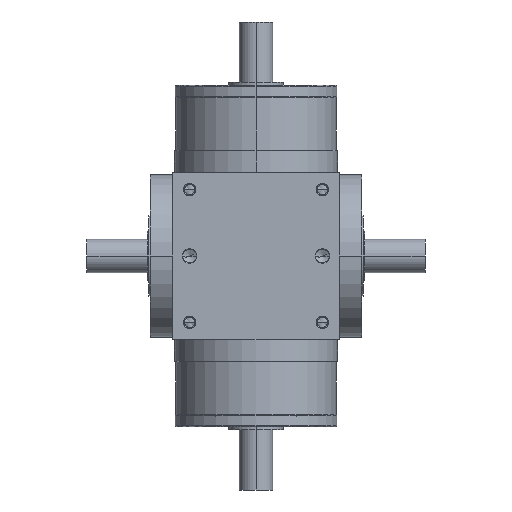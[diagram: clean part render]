
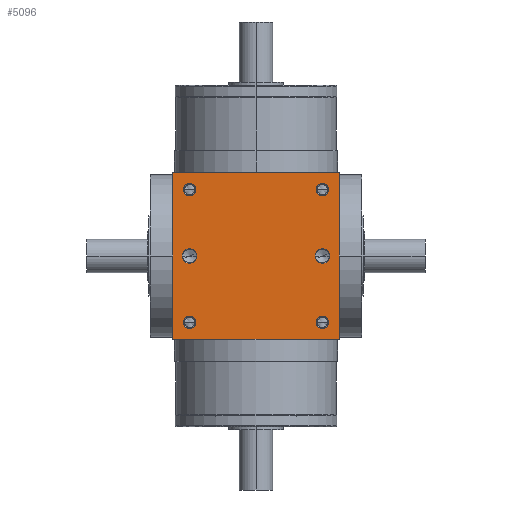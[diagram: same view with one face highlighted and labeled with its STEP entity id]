
A CAD part, front view. The second image highlights one B-rep face of the part: STEP entity #5096.
In plain terms, the highlighted planar face has unit normal (0, -1, 0).
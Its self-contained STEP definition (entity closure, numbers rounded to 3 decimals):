
#5=DIRECTION('',(1.,0.,0.));
#6=VECTOR('',#5,110.);
#7=CARTESIAN_POINT('',(-55.,-55.,-55.));
#8=LINE('',#7,#6);
#165=DIRECTION('',(0.,0.,1.));
#166=VECTOR('',#165,110.);
#167=CARTESIAN_POINT('',(55.,-55.,-55.));
#168=LINE('',#167,#166);
#219=DIRECTION('',(0.,0.,1.));
#220=VECTOR('',#219,110.);
#221=CARTESIAN_POINT('',(-55.,-55.,-55.));
#222=LINE('',#221,#220);
#223=CARTESIAN_POINT('',(44.,-55.,44.));
#224=DIRECTION('',(0.,1.,0.));
#225=DIRECTION('',(-1.,0.,0.));
#226=AXIS2_PLACEMENT_3D('',#223,#224,#225);
#228=CARTESIAN_POINT('',(44.,-55.,44.));
#229=DIRECTION('',(0.,1.,0.));
#230=DIRECTION('',(1.,0.,0.));
#231=AXIS2_PLACEMENT_3D('',#228,#229,#230);
#233=CARTESIAN_POINT('',(-44.,-55.,44.));
#234=DIRECTION('',(0.,1.,0.));
#235=DIRECTION('',(-1.,0.,0.));
#236=AXIS2_PLACEMENT_3D('',#233,#234,#235);
#238=CARTESIAN_POINT('',(-44.,-55.,44.));
#239=DIRECTION('',(0.,1.,0.));
#240=DIRECTION('',(1.,0.,0.));
#241=AXIS2_PLACEMENT_3D('',#238,#239,#240);
#243=CARTESIAN_POINT('',(44.,-55.,-44.));
#244=DIRECTION('',(0.,1.,0.));
#245=DIRECTION('',(-1.,0.,0.));
#246=AXIS2_PLACEMENT_3D('',#243,#244,#245);
#248=CARTESIAN_POINT('',(44.,-55.,-44.));
#249=DIRECTION('',(0.,1.,0.));
#250=DIRECTION('',(1.,0.,0.));
#251=AXIS2_PLACEMENT_3D('',#248,#249,#250);
#253=CARTESIAN_POINT('',(-44.,-55.,-44.));
#254=DIRECTION('',(0.,1.,0.));
#255=DIRECTION('',(-1.,0.,0.));
#256=AXIS2_PLACEMENT_3D('',#253,#254,#255);
#258=CARTESIAN_POINT('',(-44.,-55.,-44.));
#259=DIRECTION('',(0.,1.,0.));
#260=DIRECTION('',(1.,0.,0.));
#261=AXIS2_PLACEMENT_3D('',#258,#259,#260);
#263=CARTESIAN_POINT('',(-44.,-55.,0.));
#264=DIRECTION('',(0.,1.,0.));
#265=DIRECTION('',(1.,0.,0.));
#266=AXIS2_PLACEMENT_3D('',#263,#264,#265);
#268=CARTESIAN_POINT('',(-44.,-55.,0.));
#269=DIRECTION('',(0.,1.,0.));
#270=DIRECTION('',(-1.,0.,0.));
#271=AXIS2_PLACEMENT_3D('',#268,#269,#270);
#273=CARTESIAN_POINT('',(44.,-55.,0.));
#274=DIRECTION('',(0.,1.,0.));
#275=DIRECTION('',(1.,0.,0.));
#276=AXIS2_PLACEMENT_3D('',#273,#274,#275);
#278=CARTESIAN_POINT('',(44.,-55.,0.));
#279=DIRECTION('',(0.,1.,0.));
#280=DIRECTION('',(-1.,0.,0.));
#281=AXIS2_PLACEMENT_3D('',#278,#279,#280);
#295=DIRECTION('',(1.,0.,0.));
#296=VECTOR('',#295,110.);
#297=CARTESIAN_POINT('',(-55.,-55.,55.));
#298=LINE('',#297,#296);
#4070=CARTESIAN_POINT('',(-55.,-55.,-55.));
#4072=VERTEX_POINT('',#4070);
#4073=CARTESIAN_POINT('',(55.,-55.,-55.));
#4074=VERTEX_POINT('',#4073);
#4078=CARTESIAN_POINT('',(-55.,-55.,55.));
#4080=VERTEX_POINT('',#4078);
#4081=CARTESIAN_POINT('',(55.,-55.,55.));
#4082=VERTEX_POINT('',#4081);
#4261=CARTESIAN_POINT('',(39.8,-55.,44.));
#4262=CARTESIAN_POINT('',(48.2,-55.,44.));
#4263=VERTEX_POINT('',#4261);
#4264=VERTEX_POINT('',#4262);
#4269=CARTESIAN_POINT('',(-48.2,-55.,44.));
#4270=CARTESIAN_POINT('',(-39.8,-55.,44.));
#4271=VERTEX_POINT('',#4269);
#4272=VERTEX_POINT('',#4270);
#4277=CARTESIAN_POINT('',(39.8,-55.,-44.));
#4278=CARTESIAN_POINT('',(48.2,-55.,-44.));
#4279=VERTEX_POINT('',#4277);
#4280=VERTEX_POINT('',#4278);
#4285=CARTESIAN_POINT('',(-48.2,-55.,-44.));
#4286=CARTESIAN_POINT('',(-39.8,-55.,-44.));
#4287=VERTEX_POINT('',#4285);
#4288=VERTEX_POINT('',#4286);
#4645=CARTESIAN_POINT('',(-39.15,-55.,0.));
#4646=CARTESIAN_POINT('',(-48.85,-55.,0.));
#4647=VERTEX_POINT('',#4645);
#4648=VERTEX_POINT('',#4646);
#4653=CARTESIAN_POINT('',(48.85,-55.,0.));
#4654=CARTESIAN_POINT('',(39.15,-55.,0.));
#4655=VERTEX_POINT('',#4653);
#4656=VERTEX_POINT('',#4654);
#5048=CARTESIAN_POINT('',(-55.,-55.,-55.));
#5049=DIRECTION('',(0.,-1.,0.));
#5050=DIRECTION('',(1.,0.,0.));
#5051=AXIS2_PLACEMENT_3D('',#5048,#5049,#5050);
#5052=PLANE('',#5051);
#5053=ORIENTED_EDGE('',*,*,#4882,.F.);
#5054=ORIENTED_EDGE('',*,*,#4931,.T.);
#5056=ORIENTED_EDGE('',*,*,#5055,.T.);
#5057=ORIENTED_EDGE('',*,*,#5010,.F.);
#5058=EDGE_LOOP('',(#5053,#5054,#5056,#5057));
#5059=FACE_OUTER_BOUND('',#5058,.F.);
#5061=ORIENTED_EDGE('',*,*,#5060,.F.);
#5063=ORIENTED_EDGE('',*,*,#5062,.F.);
#5064=EDGE_LOOP('',(#5061,#5063));
#5065=FACE_BOUND('',#5064,.F.);
#5067=ORIENTED_EDGE('',*,*,#5066,.F.);
#5069=ORIENTED_EDGE('',*,*,#5068,.F.);
#5070=EDGE_LOOP('',(#5067,#5069));
#5071=FACE_BOUND('',#5070,.F.);
#5073=ORIENTED_EDGE('',*,*,#5072,.F.);
#5075=ORIENTED_EDGE('',*,*,#5074,.F.);
#5076=EDGE_LOOP('',(#5073,#5075));
#5077=FACE_BOUND('',#5076,.F.);
#5079=ORIENTED_EDGE('',*,*,#5078,.F.);
#5081=ORIENTED_EDGE('',*,*,#5080,.F.);
#5082=EDGE_LOOP('',(#5079,#5081));
#5083=FACE_BOUND('',#5082,.F.);
#5085=ORIENTED_EDGE('',*,*,#5084,.F.);
#5087=ORIENTED_EDGE('',*,*,#5086,.F.);
#5088=EDGE_LOOP('',(#5085,#5087));
#5089=FACE_BOUND('',#5088,.F.);
#5091=ORIENTED_EDGE('',*,*,#5090,.F.);
#5093=ORIENTED_EDGE('',*,*,#5092,.F.);
#5094=EDGE_LOOP('',(#5091,#5093));
#5095=FACE_BOUND('',#5094,.F.);
#5096=ADVANCED_FACE('',(#5059,#5065,#5071,#5077,#5083,#5089,#5095),#5052,.T.);
#227=CIRCLE('',#226,4.2);
#232=CIRCLE('',#231,4.2);
#237=CIRCLE('',#236,4.2);
#242=CIRCLE('',#241,4.2);
#247=CIRCLE('',#246,4.2);
#252=CIRCLE('',#251,4.2);
#257=CIRCLE('',#256,4.2);
#262=CIRCLE('',#261,4.2);
#267=CIRCLE('',#266,4.85);
#272=CIRCLE('',#271,4.85);
#277=CIRCLE('',#276,4.85);
#282=CIRCLE('',#281,4.85);
#4882=EDGE_CURVE('',#4072,#4074,#8,.T.);
#4931=EDGE_CURVE('',#4072,#4080,#222,.T.);
#5010=EDGE_CURVE('',#4074,#4082,#168,.T.);
#5055=EDGE_CURVE('',#4080,#4082,#298,.T.);
#5060=EDGE_CURVE('',#4263,#4264,#227,.T.);
#5062=EDGE_CURVE('',#4264,#4263,#232,.T.);
#5066=EDGE_CURVE('',#4271,#4272,#237,.T.);
#5068=EDGE_CURVE('',#4272,#4271,#242,.T.);
#5072=EDGE_CURVE('',#4279,#4280,#247,.T.);
#5074=EDGE_CURVE('',#4280,#4279,#252,.T.);
#5078=EDGE_CURVE('',#4287,#4288,#257,.T.);
#5080=EDGE_CURVE('',#4288,#4287,#262,.T.);
#5084=EDGE_CURVE('',#4647,#4648,#267,.T.);
#5086=EDGE_CURVE('',#4648,#4647,#272,.T.);
#5090=EDGE_CURVE('',#4655,#4656,#277,.T.);
#5092=EDGE_CURVE('',#4656,#4655,#282,.T.);
